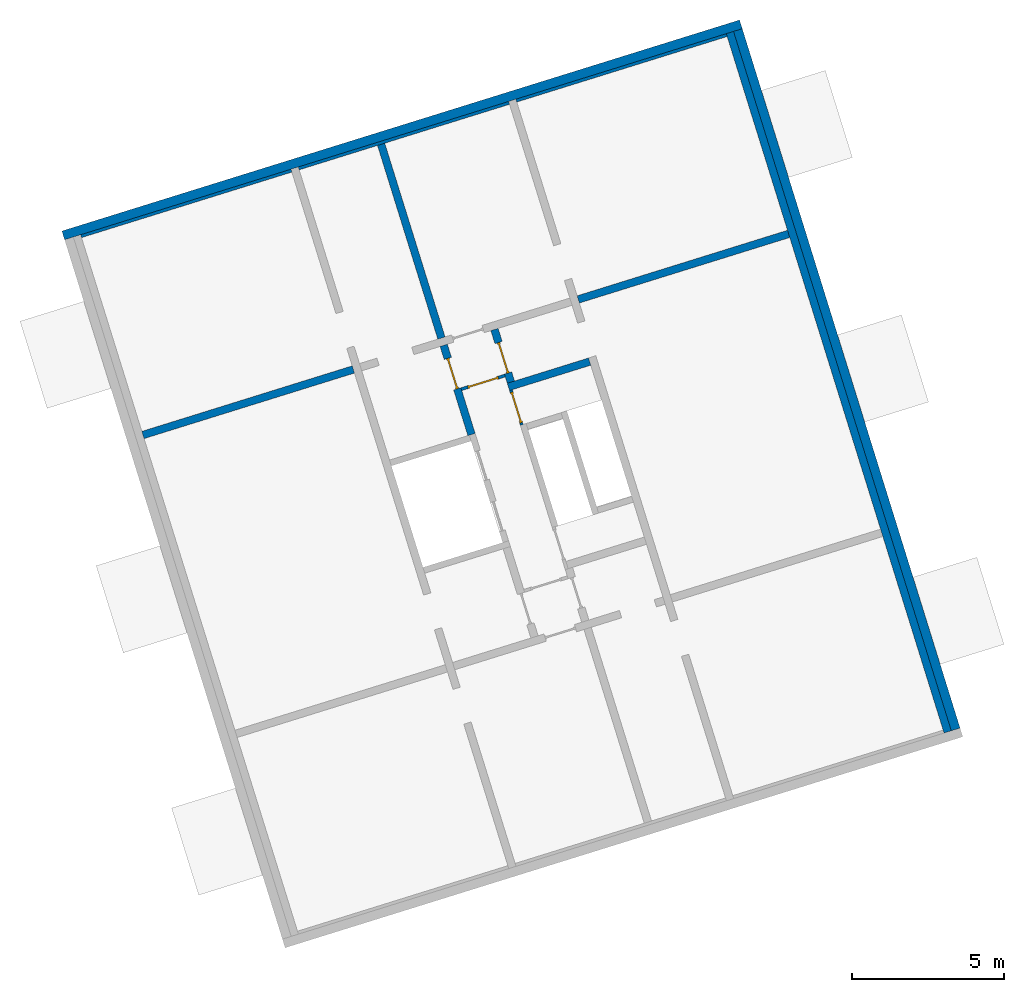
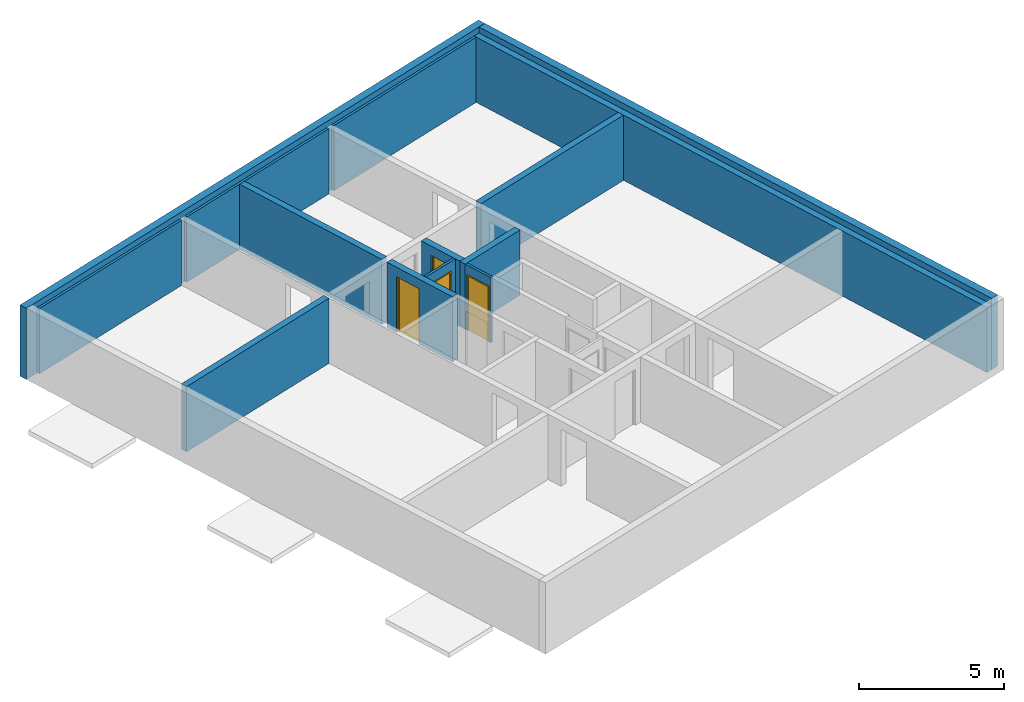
# One storey, part 2 of 3: 14 walls, 4 doors, 4 openings.
"""IFC4 building model written with IfcOpenShell, lengths in metres."""

from ifc_helpers import new_model, entity, si_unit, converted_unit, direction, frame, origin, place, context, subcontext, project, spatial, indexed_curve, outline, extrude, polygons, source, transform, mapped, material, constituent, constituent_set, type_object, type_shapes, element, fill, save


model = new_model("IFC4")

# Units and contexts
model_context = context("Model", 3, precision=1e-05, world=origin(), true_north=direction((6.12323399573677e-17, 1.0)))
body_context = subcontext(model_context, "Body", "Model", "MODEL_VIEW")
ifc_project = project(units=[si_unit("LENGTHUNIT", "METRE"), si_unit("AREAUNIT", "SQUARE_METRE"), si_unit("VOLUMEUNIT", "CUBIC_METRE"), converted_unit("PLANEANGLEUNIT", "DEGREE", entity("IfcPlaneAngleMeasure", 0.0174532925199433), si_unit("PLANEANGLEUNIT", "RADIAN"), dimensions=[0, 0, 0, 0, 0, 0, 0])], contexts=[model_context])

# Site, building, storey
site_placement = place(None, frame((13.1347999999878, 11.9886000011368, 0.0), z_axis=(0.0, 0.0, 1.0), x_axis=(0.954770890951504, 0.297342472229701, 0.0)))
site = spatial("IfcSite", under=ifc_project, at=site_placement, Name="Schiehaven", CompositionType="ELEMENT")
building_placement = place(site_placement, origin())
building = spatial("IfcBuilding", under=site, at=building_placement, Name="VORM huis", CompositionType="ELEMENT")
storey_placement = place(building_placement, frame((0.0, 0.0, 24.9)))
storey = spatial("IfcBuildingStorey", under=building, at=storey_placement, Name="08 achtste verdieping", CompositionType="ELEMENT", Elevation=24.9)

# Walls
ifc_material_1 = material(Name="beton_gewapend_ihw", Category="Miscellaneous")
wall_type_1 = type_object("IfcWallType", Name="Basic Wall:28_WA_skelet_wand 250mm_gen", PredefinedType="STANDARD")
wall_1_placement = place(storey_placement, frame((27.5, 5.0, 0.0), z_axis=(0.0, 0.0, 1.0), x_axis=(0.0, 1.0, 0.0)))
element("IfcWall", 1, at=wall_1_placement, inside=storey, type_object=wall_type_1, material=ifc_material_1, Name="Constructieve wand", ObjectType="Wand", PredefinedType="NOTDEFINED", context=body_context, shape_type="SweptSolid", body=[
    extrude(outline(indexed_curve([(24.1, 0.125000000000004), (4.21737840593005e-16, 0.125000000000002), (-4.21737840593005e-16, -0.125000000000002), (24.1, -0.125), (24.1, 0.125000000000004)], self_intersect=False)), origin(), (0.0, 0.0, 1.0), 2.75),
])
ifc_material_2 = material(Name="ntb_ntb_ntb", Category="Miscellaneous")
wall_type_2 = type_object("IfcWallType", Name="Basic Wall:21_WA_gevel_binnenspouwwand 100mm_gen", PredefinedType="STANDARD")
wall_2_placement = place(storey_placement, frame((5.12500000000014, 29.0500000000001, 0.0)))
element("IfcWall", 2, at=wall_2_placement, inside=storey, type_object=wall_type_2, material=ifc_material_2, Name="Binnenspouwblad", ObjectType="Wand", PredefinedType="NOTDEFINED", context=body_context, shape_type="SweptSolid", body=[
    extrude(outline(indexed_curve([(7.24999999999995, 0.0500000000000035), (-1.62265042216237e-16, 0.0500000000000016), (1.62265042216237e-16, -0.0500000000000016), (7.24999999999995, -0.0499999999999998), (7.24999999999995, 0.0500000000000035)], self_intersect=False)), origin(), (0.0, 0.0, 1.0), 2.75),
])
wall_3_placement = place(storey_placement, frame((19.8750000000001, 29.05, 0.0), z_axis=(0.0, 0.0, 1.0), x_axis=(-1.0, 0.0, 0.0)))
element("IfcWall", 3, at=wall_3_placement, inside=storey, type_object=wall_type_2, material=ifc_material_2, Name="Binnenspouwblad", ObjectType="Wand", PredefinedType="NOTDEFINED", context=body_context, shape_type="SweptSolid", body=[
    extrude(outline(indexed_curve([(7.24999999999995, 0.0500000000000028), (-8.07179175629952e-18, 0.0500000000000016), (8.07179175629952e-18, -0.0500000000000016), (7.24999999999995, -0.0500000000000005), (7.24999999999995, 0.0500000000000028)], self_intersect=False)), origin(), (0.0, 0.0, 1.0), 2.75),
])
wall_4_placement = place(storey_placement, frame((20.1250000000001, 29.05, 0.0)))
element("IfcWall", 4, at=wall_4_placement, inside=storey, type_object=wall_type_2, material=ifc_material_2, Name="Binnenspouwblad", ObjectType="Wand", PredefinedType="NOTDEFINED", context=body_context, shape_type="SweptSolid", body=[
    extrude(outline(indexed_curve([(7.24999999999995, 0.0500000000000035), (-1.62265042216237e-16, 0.0500000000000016), (1.62265042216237e-16, -0.0500000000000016), (7.24999999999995, -0.0499999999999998), (7.24999999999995, 0.0500000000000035)], self_intersect=False)), origin(), (0.0, 0.0, 1.0), 2.75),
])
wall_type_3 = type_object("IfcWallType", Name="Basic Wall: 300mm_gen", PredefinedType="STANDARD")
wall_5_placement = place(storey_placement, frame((27.7750000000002, 29.1, 0.0), z_axis=(0.0, 0.0, 1.0), x_axis=(0.0, -1.0, 0.0)))
element("IfcWall", 5, at=wall_5_placement, inside=storey, type_object=wall_type_3, material=ifc_material_2, Name="Gevelwand", ObjectType="Wand", PredefinedType="NOTDEFINED", context=body_context, shape_type="SweptSolid", body=[
    extrude(outline(indexed_curve([(24.1, 0.149999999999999), (-3.69735301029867e-16, 0.150000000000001), (3.69735301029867e-16, -0.150000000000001), (24.1, -0.150000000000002), (24.1, 0.149999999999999)], self_intersect=False)), origin(), (0.0, 0.0, 1.0), 3.0),
])
wall_6_placement = place(storey_placement, frame((4.57500000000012, 29.25, 0.0)))
element("IfcWall", 6, at=wall_6_placement, inside=storey, type_object=wall_type_3, material=ifc_material_2, Name="Gevelwand", ObjectType="Wand", PredefinedType="NOTDEFINED", context=body_context, shape_type="SweptSolid", body=[
    extrude(outline(indexed_curve([(23.35, 0.15), (1.58384323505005e-16, 0.150000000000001), (-1.58384323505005e-16, -0.150000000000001), (23.35, -0.150000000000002), (23.35, 0.15)], self_intersect=False)), origin(), (0.0, 0.0, 1.0), 3.0),
])
wall_type_4 = type_object("IfcWallType", Name="Basic Wall:22_WA_afbouw_binnenwand 250mm_gen", PredefinedType="STANDARD")
wall_7_placement = place(storey_placement, frame((19.8750000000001, 20.135, 0.0), z_axis=(0.0, 0.0, 1.0), x_axis=(-1.0, 0.0, 0.0)))
element("IfcWall", 7, at=wall_7_placement, inside=storey, type_object=wall_type_4, material=ifc_material_2, Name="Binnenwand", ObjectType="Wand", PredefinedType="NOTDEFINED", context=body_context, shape_type="SweptSolid", body=[
    extrude(outline(indexed_curve([(2.8, 0.125000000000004), (-4.9649652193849e-16, 0.125000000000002), (4.9649652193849e-16, -0.125000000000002), (2.80000000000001, -0.124999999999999), (2.8, 0.125000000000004)], self_intersect=False)), origin(), (0.0, 0.0, 1.0), 2.75),
])

# Wall, opening, door
wall_8_placement = place(storey_placement, frame((17.2000000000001, 20.26, 0.0), z_axis=(0.0, 0.0, 1.0), x_axis=(0.0, 1.0, 0.0)))
wall_8 = element("IfcWall", 8, at=wall_8_placement, inside=storey, type_object=wall_type_4, material=ifc_material_2, Name="Binnenwand", ObjectType="Wand", PredefinedType="NOTDEFINED", context=body_context, shape_type="Tessellation", body=[
    polygons([(0.0, -0.124999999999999, 0.0), (0.315000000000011, -0.124999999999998, 0.0), (0.315000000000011, -0.124999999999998, 2.34999999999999), (1.36500000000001, -0.125, 2.34999999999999), (1.36500000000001, -0.125, 0.0), (1.815, -0.125000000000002, 0.0), (1.815, -0.125000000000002, 2.75), (0.0, -0.124999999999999, 2.75), (0.315000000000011, 0.125, 2.34999999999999), (0.315000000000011, 0.125, 0.0), (0.215000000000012, 0.124999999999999, 0.0), (0.0, 0.125, 0.0), (0.0, 0.125, 2.75), (0.215000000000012, 0.124999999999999, 2.75), (0.315000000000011, 0.125, 2.75), (1.815, 0.125, 2.75), (1.815, 0.125, 0.0), (1.36500000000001, 0.124999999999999, 0.0), (1.36500000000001, 0.124999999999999, 2.34999999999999)], [[[1, 2, 3, 4, 5, 6, 7, 8]], [[9, 10, 11, 12, 13, 14, 15, 16, 17, 18, 19]], [[12, 11, 10, 2, 1]], [[7, 6, 17, 16]], [[8, 7, 16, 15, 14, 13]], [[5, 4, 19, 18]], [[3, 2, 10, 9]], [[4, 3, 9, 19]], [[1, 8, 13, 12]], [[18, 17, 6, 5]]], closed=True),
])
opening_1_placement = place(wall_8_placement, frame((0.315000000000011, -0.125000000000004, 0.0)))
opening_1 = element("IfcOpeningElement", 9, at=opening_1_placement, cuts=wall_8, Name="Woningtoegangsdeur", PredefinedType="OPENING", context=body_context, shape_type="SweptSolid", body=[
    extrude(outline(indexed_curve([(2.34999999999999, 1.05), (0.0, 1.05), (0.0, 0.0), (2.34999999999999, 0.0), (2.34999999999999, 1.05)], self_intersect=False)), frame((0.0, 0.0, 0.0), z_axis=(0.0, 1.0, 0.0), x_axis=(0.0, 0.0, 1.0)), (0.0, 0.0, 1.0), 0.25),
])
ifc_material_3 = material(Name="PD_a_binnenwandopeningen", Category="Miscellaneous")
ifc_constituent_1 = constituent(ifc_material_3, Name="PD_a_binnenwandopeningen", Category="Miscellaneous")
ifc_material_4 = material(Name="metaal_aluminium_ntb", Category="Miscellaneous")
ifc_constituent_2 = constituent(ifc_material_4, Name="metaal_aluminium_ntb", Category="Miscellaneous")
ifc_constituent_set_1 = constituent_set(constituents=[ifc_constituent_1, ifc_constituent_2])
ifc_constituent_3 = constituent(ifc_material_3, Name="PD_a_binnenwandopeningen", Category="Miscellaneous")
ifc_constituent_4 = constituent(ifc_material_4, Name="Panel", Category="Miscellaneous")
ifc_constituent_set_2 = constituent_set(constituents=[ifc_constituent_3, ifc_constituent_4])
door_type_1 = type_object("IfcDoorType", Name="32_DO_binnendeur enkel:woningtoegangsdeur", OperationType="REVOLVING", PredefinedType="DOOR", material=ifc_constituent_set_2)
shared_shape_1 = source(origin(), body_context, "Body", "SweptSolid", [
    extrude(outline(indexed_curve([(-1.16249999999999, -0.525000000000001), (1.18749999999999, -0.525), (1.18749999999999, 0.525000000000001), (-1.16249999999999, 0.525000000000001), (-1.16249999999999, 0.475), (1.13749999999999, 0.475), (1.13749999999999, -0.475), (-1.16249999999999, -0.475), (-1.16249999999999, -0.525000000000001)], self_intersect=False)), frame((0.525000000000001, 0.0749999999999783, 1.16249999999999), z_axis=(0.0, 1.0, 0.0), x_axis=(0.0, 0.0, 1.0)), (0.0, 0.0, 1.0), 0.1),
    extrude(outline(indexed_curve([(-0.025, -0.475), (0.025, -0.475), (0.025, 0.475), (-0.025, 0.475), (-0.025, -0.475)], self_intersect=False)), frame((0.525000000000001, 0.12499999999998, 0.0), z_axis=(0.0, 0.0, 1.0), x_axis=(0.0, 1.0, 0.0)), (0.0, 0.0, 1.0), 2.29999999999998),
])
type_shapes(door_type_1, [shared_shape_1])
door_1_placement = place(opening_1_placement, origin())
door_1 = element("IfcDoor", 10, at=door_1_placement, inside=storey, type_object=door_type_1, material=ifc_constituent_set_1, Name="Woningtoegangsdeur", ObjectType="Deur", OperationType="REVOLVING", OverallHeight=2.34999999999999, OverallWidth=1.05, PredefinedType="DOOR", context=body_context, shape_type="MappedRepresentation", body=[
    mapped(shared_shape_1, transform((0.0, 0.0, 0.0), scale=1.0)),
])
fill(opening_1, door_1)

wall_9_placement = place(storey_placement, frame((15.4500000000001, 19.0, 0.0), z_axis=(0.0, 0.0, 1.0), x_axis=(0.0, 1.0, 0.0)))
wall_9 = element("IfcWall", 11, at=wall_9_placement, inside=storey, type_object=wall_type_4, material=ifc_material_2, Name="Binnenwand", ObjectType="Wand", PredefinedType="NOTDEFINED", context=body_context, shape_type="Tessellation", body=[
    polygons([(2.62500000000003, -0.124999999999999, 2.34999999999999), (2.62500000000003, -0.124999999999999, 0.0), (3.075, -0.124999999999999, 0.0), (3.075, -0.124999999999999, 2.75), (1.575, -0.124999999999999, 2.75), (1.475, -0.124999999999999, 2.75), (2.16573425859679e-15, -0.124999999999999, 2.75), (2.16573425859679e-15, -0.124999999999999, 0.0), (1.475, -0.124999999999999, 0.0), (1.57500000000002, -0.124999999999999, 0.0), (1.57500000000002, -0.124999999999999, 2.34999999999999), (3.075, 0.125000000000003, 0.0), (2.62500000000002, 0.125, 0.0), (2.62500000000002, 0.125, 2.34999999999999), (1.57500000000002, 0.124999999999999, 2.34999999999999), (1.57500000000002, 0.124999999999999, 0.0), (0.0, 0.125000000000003, 0.0), (0.0, 0.125000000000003, 2.75), (3.075, 0.125000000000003, 2.75)], [[[1, 2, 3, 4, 5, 6, 7, 8, 9, 10, 11]], [[12, 13, 14, 15, 16, 17, 18, 19]], [[10, 9, 8, 17, 16]], [[4, 3, 12, 19]], [[7, 6, 5, 4, 19, 18]], [[8, 7, 18, 17]], [[16, 15, 11, 10]], [[14, 13, 2, 1]], [[15, 14, 1, 11]], [[3, 2, 13, 12]]], closed=True),
])
opening_2_placement = place(wall_9_placement, frame((2.62500000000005, 0.124999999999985, 0.0)))
opening_2 = element("IfcOpeningElement", 12, at=opening_2_placement, cuts=wall_9, Name="Woningtoegangsdeur", PredefinedType="OPENING", context=body_context, shape_type="SweptSolid", body=[
    extrude(outline(indexed_curve([(2.34999999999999, 1.05), (0.0, 1.05), (0.0, 0.0), (2.34999999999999, 0.0), (2.34999999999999, 1.05)], self_intersect=False)), frame((0.0, 0.0, 0.0), z_axis=(0.0, -1.0, 0.0), x_axis=(0.0, 0.0, 1.0)), (0.0, 0.0, 1.0), 0.25),
])
ifc_constituent_5 = constituent(ifc_material_3, Name="PD_a_binnenwandopeningen", Category="Miscellaneous")
ifc_constituent_6 = constituent(ifc_material_4, Name="metaal_aluminium_ntb", Category="Miscellaneous")
ifc_constituent_set_3 = constituent_set(constituents=[ifc_constituent_5, ifc_constituent_6])
door_2_placement = place(opening_2_placement, frame((0.0, 0.0, 0.0), z_axis=(0.0, 0.0, 1.0), x_axis=(-1.0, 0.0, 0.0)))
door_2 = element("IfcDoor", 13, at=door_2_placement, inside=storey, type_object=door_type_1, material=ifc_constituent_set_3, Name="Woningtoegangsdeur", ObjectType="Deur", OperationType="REVOLVING", OverallHeight=2.34999999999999, OverallWidth=1.05, PredefinedType="DOOR", context=body_context, shape_type="MappedRepresentation", body=[
    mapped(shared_shape_1, transform((0.0, 0.0, 0.0), scale=1.0)),
])
fill(opening_2, door_2)

# Walls
wall_10_placement = place(storey_placement, frame((12.3750000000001, 22.2, 0.0), z_axis=(0.0, 0.0, 1.0), x_axis=(-1.0, 0.0, 0.0)))
element("IfcWall", 14, at=wall_10_placement, inside=storey, type_object=wall_type_4, material=ifc_material_2, Name="Binnenwand", ObjectType="Wand", PredefinedType="NOTDEFINED", context=body_context, shape_type="SweptSolid", body=[
    extrude(outline(indexed_curve([(7.24999999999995, 0.125000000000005), (-4.9649652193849e-16, 0.125000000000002), (4.9649652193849e-16, -0.125000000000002), (7.24999999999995, -0.124999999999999), (7.24999999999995, 0.125000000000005)], self_intersect=False)), origin(), (0.0, 0.0, 1.0), 2.75),
])
wall_11_placement = place(storey_placement, frame((15.4500000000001, 22.325, 0.0), z_axis=(0.0, 0.0, 1.0), x_axis=(0.0, 1.0, 0.0)))
element("IfcWall", 15, at=wall_11_placement, inside=storey, type_object=wall_type_4, material=ifc_material_2, Name="Binnenwand", ObjectType="Wand", PredefinedType="NOTDEFINED", context=body_context, shape_type="SweptSolid", body=[
    extrude(outline(indexed_curve([(6.67500000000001, 0.125), (-6.8946596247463e-16, 0.125), (6.8946596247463e-16, -0.125), (6.67500000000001, -0.125), (6.67500000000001, 0.125)], self_intersect=False)), origin(), (0.0, 0.0, 1.0), 2.75),
])
wall_12_placement = place(storey_placement, frame((20.125, 22.2, 0.0)))
element("IfcWall", 16, at=wall_12_placement, inside=storey, type_object=wall_type_4, material=ifc_material_2, Name="Binnenwand", ObjectType="Wand", PredefinedType="NOTDEFINED", context=body_context, shape_type="SweptSolid", body=[
    extrude(outline(indexed_curve([(7.24999999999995, 0.125000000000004), (-1.92055213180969e-16, 0.125000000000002), (1.92055213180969e-16, -0.125000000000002), (7.24999999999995, -0.124999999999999), (7.24999999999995, 0.125000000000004)], self_intersect=False)), origin(), (0.0, 0.0, 1.0), 2.75),
])

# Wall, opening, door
wall_type_5 = type_object("IfcWallType", Name="Basic Wall:22_WA_afbouw_binnenwand 100mm_gen", PredefinedType="STANDARD")
wall_13_placement = place(storey_placement, frame((17.1250000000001, 20.01, 0.0), z_axis=(0.0, 0.0, 1.0), x_axis=(0.0, -1.0, 0.0)))
wall_13 = element("IfcWall", 17, at=wall_13_placement, inside=storey, type_object=wall_type_5, material=ifc_material_2, Name="Binnenwand", ObjectType="Wand", PredefinedType="NOTDEFINED", context=body_context, shape_type="Tessellation", body=[
    polygons([(1.19999999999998, -0.050000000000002, 0.0), (1.19999999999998, -0.050000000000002, 2.75), (0.0, -0.0500000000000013, 2.75), (0.0, -0.0500000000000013, 0.0), (0.0749999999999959, -0.0500000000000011, 0.0), (0.0749999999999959, -0.0500000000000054, 2.34999999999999), (1.125, -0.0500000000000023, 2.34999999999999), (1.125, -0.0500000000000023, 0.0), (1.19999999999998, 0.0499999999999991, 2.75), (1.19999999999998, 0.0499999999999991, 0.0), (1.125, 0.0499999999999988, 0.0), (1.125, 0.0499999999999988, 2.34999999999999), (0.0749999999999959, 0.0499999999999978, 2.34999999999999), (0.0749999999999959, 0.0499999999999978, 0.0), (0.0, 0.0500000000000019, 0.0), (0.0, 0.0500000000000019, 2.75)], [[[1, 2, 3, 4, 5, 6, 7, 8]], [[9, 10, 11, 12, 13, 14, 15, 16]], [[4, 15, 14, 5]], [[2, 1, 10, 9]], [[3, 2, 9, 16]], [[4, 3, 16, 15]], [[13, 6, 5, 14]], [[6, 13, 12, 7]], [[7, 12, 11, 8]], [[10, 1, 8, 11]]], closed=True),
])
opening_3_placement = place(wall_13_placement, frame((0.0749999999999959, -0.0499999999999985, 0.0)))
opening_3 = element("IfcOpeningElement", 18, at=opening_3_placement, cuts=wall_13, Name="Vluchtdeur", PredefinedType="OPENING", context=body_context, shape_type="SweptSolid", body=[
    extrude(outline(indexed_curve([(2.34999999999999, 1.05), (0.0, 1.05), (0.0, -3.51974282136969e-30), (2.34999999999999, -3.51974282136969e-30), (2.34999999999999, 1.05)], self_intersect=False)), frame((0.0, 0.0, 0.0), z_axis=(0.0, 1.0, 0.0), x_axis=(0.0, 0.0, 1.0)), (0.0, 0.0, 1.0), 0.1),
])
ifc_constituent_7 = constituent(ifc_material_3, Name="PD_a_binnenwandopeningen", Category="Miscellaneous")
ifc_constituent_8 = constituent(ifc_material_4, Name="metaal_aluminium_ntb", Category="Miscellaneous")
ifc_constituent_set_4 = constituent_set(constituents=[ifc_constituent_7, ifc_constituent_8])
ifc_constituent_9 = constituent(ifc_material_3, Name="PD_a_binnenwandopeningen", Category="Miscellaneous")
ifc_constituent_10 = constituent(ifc_material_4, Name="Panel", Category="Miscellaneous")
ifc_constituent_set_5 = constituent_set(constituents=[ifc_constituent_9, ifc_constituent_10])
door_type_2 = type_object("IfcDoorType", Name="32_DO_binnendeur enkel:binnendeur zelfsluitend 30min", OperationType="NOTDEFINED", PredefinedType="DOOR", material=ifc_constituent_set_5)
shared_shape_2 = source(origin(), body_context, "Body", "SweptSolid", [
    extrude(outline(indexed_curve([(-1.16249999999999, -0.525000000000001), (1.18749999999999, -0.525), (1.18749999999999, 0.525), (-1.16249999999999, 0.525), (-1.16249999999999, 0.475), (1.13749999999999, 0.475), (1.13749999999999, -0.475), (-1.16249999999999, -0.475), (-1.16249999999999, -0.525000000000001)], self_intersect=False)), frame((0.525000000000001, 0.0, 1.16249999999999), z_axis=(0.0, 1.0, 0.0), x_axis=(0.0, 0.0, 1.0)), (0.0, 0.0, 1.0), 0.1),
    extrude(outline(indexed_curve([(-0.025, -0.475), (0.025, -0.475), (0.025, 0.475), (-0.025, 0.475), (-0.025, -0.475)], self_intersect=False)), frame((0.525000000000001, 0.0499999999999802, 0.0), z_axis=(0.0, 0.0, 1.0), x_axis=(0.0, 1.0, 0.0)), (0.0, 0.0, 1.0), 2.29999999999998),
])
type_shapes(door_type_2, [shared_shape_2])
door_3_placement = place(opening_3_placement, origin())
door_3 = element("IfcDoor", 19, at=door_3_placement, inside=storey, type_object=door_type_2, material=ifc_constituent_set_4, Name="Vluchtdeur", ObjectType="Deur", OperationType="NOTDEFINED", OverallHeight=2.34999999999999, OverallWidth=1.05, PredefinedType="DOOR", context=body_context, shape_type="MappedRepresentation", body=[
    mapped(shared_shape_2, transform((0.0, 0.0, 0.0), scale=1.0)),
])
fill(opening_3, door_3)

wall_14_placement = place(storey_placement, frame((17.0750000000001, 20.525, 0.0), z_axis=(0.0, 0.0, 1.0), x_axis=(-1.0, 0.0, 0.0)))
wall_14 = element("IfcWall", 20, at=wall_14_placement, inside=storey, type_object=wall_type_5, material=ifc_material_2, Name="Binnenwand", ObjectType="Wand", PredefinedType="NOTDEFINED", context=body_context, shape_type="Tessellation", body=[
    polygons([(1.50000000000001, -0.0499999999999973, 2.75), (7.85851977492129e-16, -0.0499999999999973, 2.75), (7.85851977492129e-16, -0.0499999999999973, 2.34999999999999), (7.85851977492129e-16, -0.0499999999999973, 0.0), (0.224999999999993, -0.0499999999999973, 0.0), (0.224999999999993, -0.0499999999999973, 2.34999999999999), (1.27499999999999, -0.0499999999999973, 2.34999999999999), (1.27499999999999, -0.0499999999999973, 0.0), (1.50000000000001, -0.0499999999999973, 0.0), (1.50000000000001, -0.0499999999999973, 2.34999999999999), (8.45188811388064e-16, 0.0500000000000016, 2.75), (1.50000000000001, 0.0500000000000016, 2.75), (1.50000000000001, 0.0500000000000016, 0.0), (1.27499999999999, 0.0500000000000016, 0.0), (1.27499999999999, 0.0500000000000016, 2.34999999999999), (0.224999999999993, 0.0500000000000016, 2.34999999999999), (0.224999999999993, 0.0500000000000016, 0.0), (8.45188811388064e-16, 0.0500000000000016, 0.0)], [[[1, 2, 3, 4, 5, 6, 7, 8, 9, 10]], [[11, 12, 13, 14, 15, 16, 17, 18]], [[4, 18, 17, 5]], [[2, 1, 12, 11]], [[16, 6, 5, 17]], [[6, 16, 15, 7]], [[7, 15, 14, 8]], [[4, 3, 2, 11, 18]], [[1, 10, 9, 13, 12]], [[13, 9, 8, 14]]], closed=True),
])
opening_4_placement = place(wall_14_placement, frame((0.224999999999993, -0.0500000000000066, 0.0)))
opening_4 = element("IfcOpeningElement", 21, at=opening_4_placement, cuts=wall_14, Name="Vluchtdeur", PredefinedType="OPENING", context=body_context, shape_type="SweptSolid", body=[
    extrude(outline(indexed_curve([(2.34999999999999, 1.05), (0.0, 1.05), (0.0, 1.35358391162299e-15), (2.34999999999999, 1.35358391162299e-15), (2.34999999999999, 1.05)], self_intersect=False)), frame((0.0, 0.0, 0.0), z_axis=(0.0, 1.0, 0.0), x_axis=(0.0, 0.0, 1.0)), (0.0, 0.0, 1.0), 0.1),
])
ifc_constituent_11 = constituent(ifc_material_3, Name="PD_a_binnenwandopeningen", Category="Miscellaneous")
ifc_constituent_12 = constituent(ifc_material_4, Name="metaal_aluminium_ntb", Category="Miscellaneous")
ifc_constituent_set_6 = constituent_set(constituents=[ifc_constituent_11, ifc_constituent_12])
door_4_placement = place(opening_4_placement, origin())
door_4 = element("IfcDoor", 22, at=door_4_placement, inside=storey, type_object=door_type_2, material=ifc_constituent_set_6, Name="Vluchtdeur", ObjectType="Deur", OperationType="NOTDEFINED", OverallHeight=2.34999999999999, OverallWidth=1.05, PredefinedType="DOOR", context=body_context, shape_type="MappedRepresentation", body=[
    mapped(shared_shape_2, transform((0.0, 0.0, 0.0), scale=1.0)),
])
fill(opening_4, door_4)

save(model, "model.ifc")
